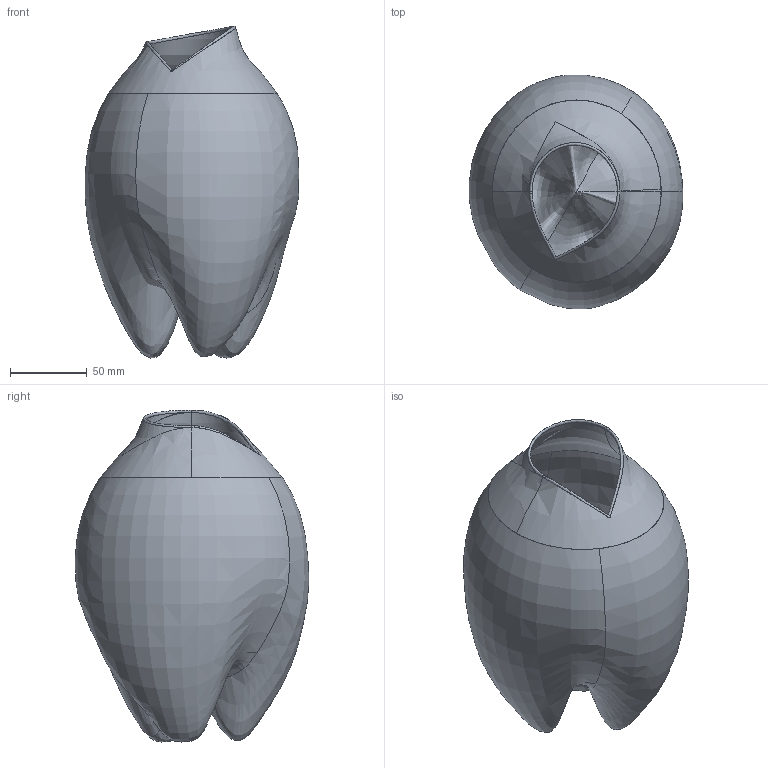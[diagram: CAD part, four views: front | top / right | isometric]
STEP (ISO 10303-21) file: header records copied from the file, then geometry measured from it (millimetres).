
FILE_DESCRIPTION(/* description */ (''),/* implementation_level */ '2;1');
FILE_NAME(/* name */ 'Sumo Vase Slim Petit',/* time_stamp */ '2022-07-14T16:04:56+02:00',/* author */ (''),/* organization */ (''),/* preprocessor_version */ 'ST-DEVELOPER v15',/* originating_system */ '',/* authorisation */ '');
FILE_SCHEMA (('AUTOMOTIVE_DESIGN'));
Length unit declared in the file: millimetre
Products named in the file (1): Document
Bounding box: 138.73 x 152.02 x 215.74 mm (x, y, z)
Surface area: 124187.2 mm2 (no closed solid volume)
Topology: 0 solids, 10 shells, 13 faces, 65 edges, 66 vertices
Faces by surface type: bspline 13
Entity records: 23404 total; most frequent: CARTESIAN_POINT 23067, B_SPLINE_CURVE_WITH_KNOTS 62, ORIENTED_EDGE 57, EDGE_CURVE 51, VERTEX_POINT 46, PRESENTATION_LAYER_ASSIGNMENT 21, ADVANCED_FACE 13, FACE_OUTER_BOUND 13
